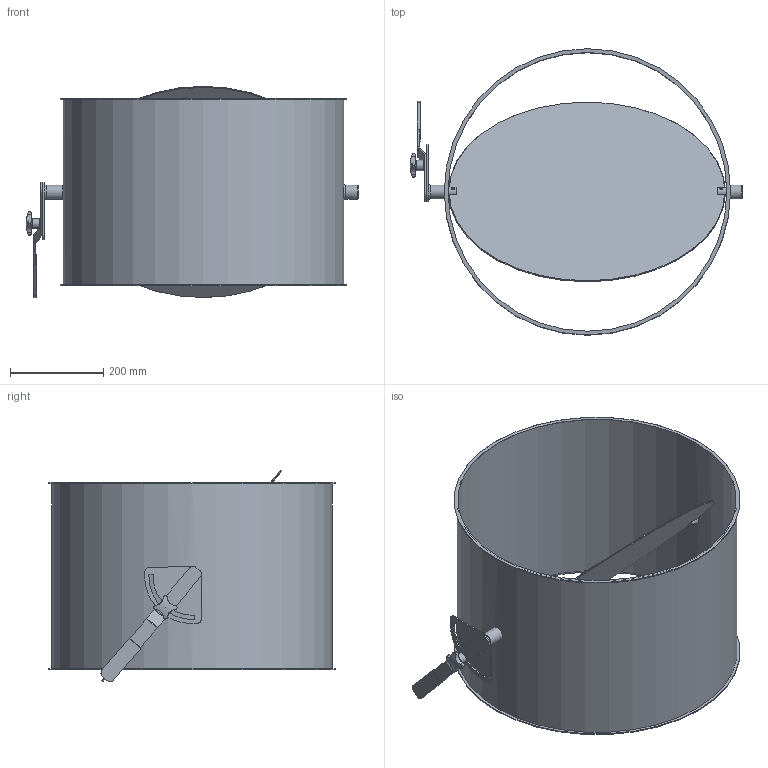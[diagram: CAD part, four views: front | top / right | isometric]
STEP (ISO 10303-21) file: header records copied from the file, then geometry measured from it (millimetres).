
FILE_DESCRIPTION((''),'2;1');
FILE_NAME('U:\Wolfgang\Marcel-3D\fertig\Kapitel 8\6021075.stp','2012-01-13T11:23:09',('iwienholt'),(''),'Autodesk Inventor 2010','Autodesk Inventor 2010','');
FILE_SCHEMA(('AUTOMOTIVE_DESIGN { 1 0 10303 214 1 1 1 1 }'));
Length unit declared in the file: millimetre
Products named in the file (7): 6021075; Bolzen D20; ganter_din_6335-ku-50-m10-k; Griff D20; Scheibe600; Umstellsegment D20; 6021075-1
Assembly tree (6 placements, depth 2):
  6021075
    Bolzen D20
    ganter_din_6335-ku-50-m10-k
    Griff D20
    Scheibe600
    Umstellsegment D20
    6021075-1
Bounding box: 712 x 614 x 453.23 mm (x, y, z)
Volume: 2544798.6 mm3; surface area: 2188459.4 mm2
Topology: 6 solids, 6 shells, 119 faces, 304 edges, 206 vertices
Faces by surface type: plane 51, cylinder 46, torus 9, bspline 7, cone 5, sphere 1
Full cylindrical faces by diameter (mm): 6 x4, 8 x1, 9 x1, 10 x2, 16 x1, 20 x6, 22 x1, 30 x3, 594 x1, 598 x1, 602 x1, 614 x2
Entity records: 4467 total; most frequent: CARTESIAN_POINT 1602, DIRECTION 566, ORIENTED_EDGE 492, EDGE_CURVE 246, AXIS2_PLACEMENT_3D 240, EDGE_LOOP 188, VERTEX_POINT 186, FACE_OUTER_BOUND 119
